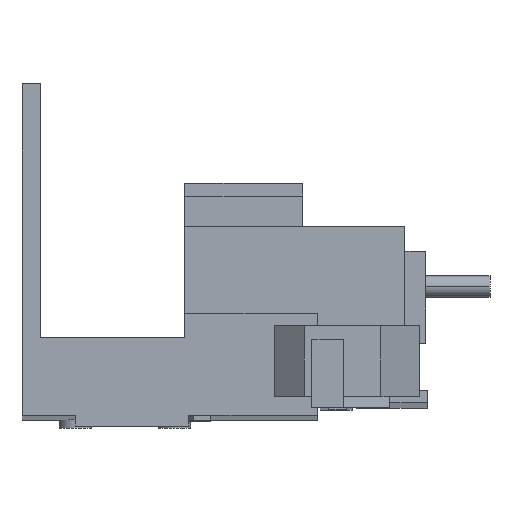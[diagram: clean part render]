
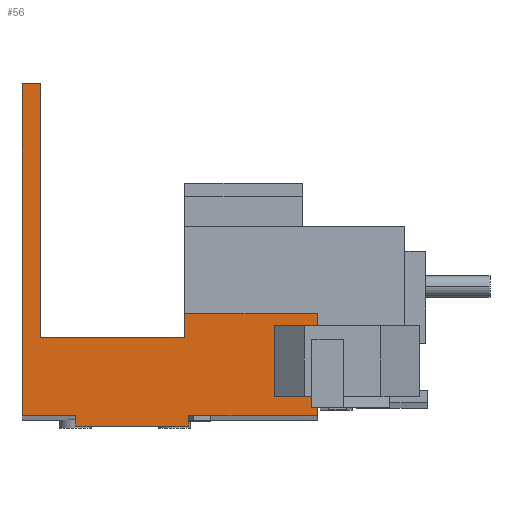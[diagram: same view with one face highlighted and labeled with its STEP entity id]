
A CAD part, front view. The second image highlights one B-rep face of the part: STEP entity #56.
In plain terms, the highlighted planar face has unit normal (0, -1, 0.002).
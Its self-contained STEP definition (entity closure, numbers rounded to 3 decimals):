
#56 = ADVANCED_FACE ( 'NONE', ( #5277 ), #412, .F. ) ;
#407 = CARTESIAN_POINT ( 'NONE',  ( 0., -33.076, -36.181 ) ) ;
#412 = PLANE ( 'NONE',  #2665 ) ;
#415 = DIRECTION ( 'NONE',  ( 0., 1., -0.002 ) ) ;
#416 = DIRECTION ( 'NONE',  ( 1., 0., 0. ) ) ;
#1245 = EDGE_CURVE ( 'NONE', #1752, #1684, #5301, .T. ) ;
#1287 = EDGE_CURVE ( 'NONE', #1737, #1715, #5298, .T. ) ;
#1312 = EDGE_CURVE ( 'NONE', #1715, #1873, #4779, .T. ) ;
#1316 = EDGE_CURVE ( 'NONE', #1737, #1847, #5020, .T. ) ;
#1382 = EDGE_CURVE ( 'NONE', #1867, #1988, #4824, .T. ) ;
#1409 = EDGE_CURVE ( 'NONE', #1988, #1733, #5732, .T. ) ;
#1428 = EDGE_CURVE ( 'NONE', #1684, #2061, #5859, .T. ) ;
#1451 = EDGE_CURVE ( 'NONE', #1750, #1867, #5729, .T. ) ;
#1522 = EDGE_CURVE ( 'NONE', #1847, #2065, #5718, .T. ) ;
#1532 = EDGE_CURVE ( 'NONE', #1873, #1752, #5696, .T. ) ;
#1614 = EDGE_CURVE ( 'NONE', #1733, #2065, #5371, .T. ) ;
#1663 = EDGE_CURVE ( 'NONE', #2061, #1750, #5577, .T. ) ;
#1684 = VERTEX_POINT ( 'NONE', #3957 ) ;
#1715 = VERTEX_POINT ( 'NONE', #3997 ) ;
#1733 = VERTEX_POINT ( 'NONE', #4013 ) ;
#1737 = VERTEX_POINT ( 'NONE', #4015 ) ;
#1750 = VERTEX_POINT ( 'NONE', #4024 ) ;
#1752 = VERTEX_POINT ( 'NONE', #4026 ) ;
#1847 = VERTEX_POINT ( 'NONE', #4106 ) ;
#1867 = VERTEX_POINT ( 'NONE', #4124 ) ;
#1873 = VERTEX_POINT ( 'NONE', #4129 ) ;
#1875 = EDGE_LOOP ( 'NONE', ( #2551, #2280, #2384, #1934, #2424, #2151, #2105, #2294, #2443, #2477, #2267, #2514 ) ) ;
#1934 = ORIENTED_EDGE ( 'NONE', *, *, #1532, .F. ) ;
#1988 = VERTEX_POINT ( 'NONE', #4168 ) ;
#2061 = VERTEX_POINT ( 'NONE', #4178 ) ;
#2065 = VERTEX_POINT ( 'NONE', #4172 ) ;
#2105 = ORIENTED_EDGE ( 'NONE', *, *, #1316, .T. ) ;
#2151 = ORIENTED_EDGE ( 'NONE', *, *, #1287, .F. ) ;
#2267 = ORIENTED_EDGE ( 'NONE', *, *, #1382, .F. ) ;
#2280 = ORIENTED_EDGE ( 'NONE', *, *, #1428, .F. ) ;
#2294 = ORIENTED_EDGE ( 'NONE', *, *, #1522, .T. ) ;
#2384 = ORIENTED_EDGE ( 'NONE', *, *, #1245, .F. ) ;
#2424 = ORIENTED_EDGE ( 'NONE', *, *, #1312, .F. ) ;
#2443 = ORIENTED_EDGE ( 'NONE', *, *, #1614, .F. ) ;
#2477 = ORIENTED_EDGE ( 'NONE', *, *, #1409, .F. ) ;
#2514 = ORIENTED_EDGE ( 'NONE', *, *, #1451, .F. ) ;
#2551 = ORIENTED_EDGE ( 'NONE', *, *, #1663, .F. ) ;
#2665 = AXIS2_PLACEMENT_3D ( 'NONE', #407, #415, #416 ) ;
#2982 = DIRECTION ( 'NONE',  ( 1., 0., 0. ) ) ;
#2987 = CARTESIAN_POINT ( 'NONE',  ( 2.55, -32.978, 10.519 ) ) ;
#3087 = CARTESIAN_POINT ( 'NONE',  ( 7.5, -33.079, -37.681 ) ) ;
#3088 = DIRECTION ( 'NONE',  ( 0., 0.002, 1. ) ) ;
#3133 = CARTESIAN_POINT ( 'NONE',  ( 0., -33.076, -36.181 ) ) ;
#3143 = DIRECTION ( 'NONE',  ( -1., 0., 0. ) ) ;
#3144 = CARTESIAN_POINT ( 'NONE',  ( 7.5, -33.079, -37.681 ) ) ;
#3150 = DIRECTION ( 'NONE',  ( 1., 0., 0. ) ) ;
#3300 = CARTESIAN_POINT ( 'NONE',  ( 41.6, -33.046, -21.831 ) ) ;
#3302 = DIRECTION ( 'NONE',  ( 1., 0., 0. ) ) ;
#3358 = CARTESIAN_POINT ( 'NONE',  ( 41.6, -33.076, -36.181 ) ) ;
#3359 = DIRECTION ( 'NONE',  ( 0., -0.002, -1. ) ) ;
#3390 = CARTESIAN_POINT ( 'NONE',  ( 2.55, -33.072, -34.53 ) ) ;
#3399 = DIRECTION ( 'NONE',  ( 0., -0.002, -1. ) ) ;
#3447 = CARTESIAN_POINT ( 'NONE',  ( 22.92, -33.046, -21.831 ) ) ;
#3453 = DIRECTION ( 'NONE',  ( 0., 0.002, 1. ) ) ;
#3622 = CARTESIAN_POINT ( 'NONE',  ( 23.5, -33.079, -37.681 ) ) ;
#3629 = DIRECTION ( 'NONE',  ( 0., 0.002, 1. ) ) ;
#3643 = DIRECTION ( 'NONE',  ( 0., 0.002, 1. ) ) ;
#3647 = CARTESIAN_POINT ( 'NONE',  ( 0., -32.978, 10.519 ) ) ;
#3852 = CARTESIAN_POINT ( 'NONE',  ( 0., -33.076, -36.181 ) ) ;
#3853 = DIRECTION ( 'NONE',  ( -1., 0., 0. ) ) ;
#3947 = CARTESIAN_POINT ( 'NONE',  ( 2., -33.053, -25.181 ) ) ;
#3948 = DIRECTION ( 'NONE',  ( 1., 0., 0. ) ) ;
#3957 = CARTESIAN_POINT ( 'NONE',  ( 2.55, -32.978, 10.519 ) ) ;
#3997 = CARTESIAN_POINT ( 'NONE',  ( 7.5, -33.076, -36.181 ) ) ;
#4013 = CARTESIAN_POINT ( 'NONE',  ( 41.6, -33.076, -36.181 ) ) ;
#4015 = CARTESIAN_POINT ( 'NONE',  ( 7.5, -33.079, -37.681 ) ) ;
#4024 = CARTESIAN_POINT ( 'NONE',  ( 22.92, -33.053, -25.181 ) ) ;
#4026 = CARTESIAN_POINT ( 'NONE',  ( 0., -32.978, 10.519 ) ) ;
#4106 = CARTESIAN_POINT ( 'NONE',  ( 23.5, -33.079, -37.681 ) ) ;
#4124 = CARTESIAN_POINT ( 'NONE',  ( 22.92, -33.046, -21.831 ) ) ;
#4129 = CARTESIAN_POINT ( 'NONE',  ( 0., -33.076, -36.181 ) ) ;
#4168 = CARTESIAN_POINT ( 'NONE',  ( 41.6, -33.046, -21.831 ) ) ;
#4172 = CARTESIAN_POINT ( 'NONE',  ( 23.5, -33.076, -36.181 ) ) ;
#4178 = CARTESIAN_POINT ( 'NONE',  ( 2.55, -33.053, -25.181 ) ) ;
#4333 = VECTOR ( 'NONE', #3150, 1000. ) ;
#4509 = VECTOR ( 'NONE', #2982, 1000. ) ;
#4528 = VECTOR ( 'NONE', #3088, 1000. ) ;
#4634 = VECTOR ( 'NONE', #3302, 1000. ) ;
#4779 = LINE ( 'NONE', #3133, #5027 ) ;
#4824 = LINE ( 'NONE', #3300, #4634 ) ;
#5020 = LINE ( 'NONE', #3144, #4333 ) ;
#5027 = VECTOR ( 'NONE', #3143, 1000. ) ;
#5277 = FACE_OUTER_BOUND ( 'NONE', #1875, .T. ) ;
#5298 = LINE ( 'NONE', #3087, #4528 ) ;
#5301 = LINE ( 'NONE', #2987, #4509 ) ;
#5371 = LINE ( 'NONE', #3852, #5502 ) ;
#5502 = VECTOR ( 'NONE', #3853, 1000. ) ;
#5577 = LINE ( 'NONE', #3947, #5579 ) ;
#5579 = VECTOR ( 'NONE', #3948, 1000. ) ;
#5639 = VECTOR ( 'NONE', #3359, 1000. ) ;
#5679 = VECTOR ( 'NONE', #3453, 1000. ) ;
#5696 = LINE ( 'NONE', #3647, #5867 ) ;
#5718 = LINE ( 'NONE', #3622, #5770 ) ;
#5729 = LINE ( 'NONE', #3447, #5679 ) ;
#5732 = LINE ( 'NONE', #3358, #5639 ) ;
#5770 = VECTOR ( 'NONE', #3629, 1000. ) ;
#5802 = VECTOR ( 'NONE', #3399, 1000. ) ;
#5859 = LINE ( 'NONE', #3390, #5802 ) ;
#5867 = VECTOR ( 'NONE', #3643, 1000. ) ;
